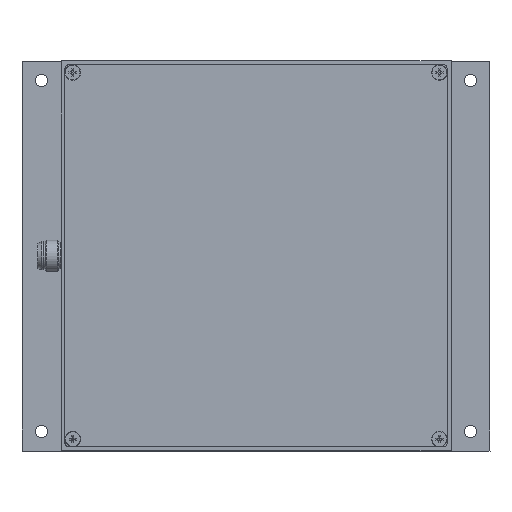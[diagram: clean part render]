
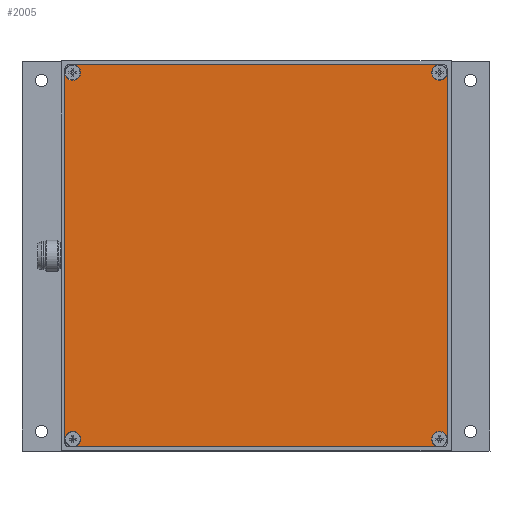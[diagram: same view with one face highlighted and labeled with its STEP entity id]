
A CAD part, top view. The second image highlights one B-rep face of the part: STEP entity #2005.
In plain terms, the highlighted planar face has unit normal (0, 0, 1).
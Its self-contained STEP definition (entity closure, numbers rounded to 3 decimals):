
#2005=ADVANCED_FACE('13:1309',(#3748),#3749,.T.);
#3748=FACE_OUTER_BOUND('',#5491,.T.);
#3749=PLANE('',#5492);
#5491=EDGE_LOOP('',(#9957,#9958,#9959,#9960,#9961,#9962,#9963,#9964,#9965,#9966,#9967,#9968));
#5492=AXIS2_PLACEMENT_3D('',#9969,#9970,#9971);
#9957=ORIENTED_EDGE('',*,*,#11745,.T.);
#9958=ORIENTED_EDGE('',*,*,#11736,.T.);
#9959=ORIENTED_EDGE('',*,*,#11779,.F.);
#9960=ORIENTED_EDGE('',*,*,#11725,.T.);
#9961=ORIENTED_EDGE('',*,*,#11750,.T.);
#9962=ORIENTED_EDGE('',*,*,#11780,.F.);
#9963=ORIENTED_EDGE('',*,*,#11716,.T.);
#9964=ORIENTED_EDGE('',*,*,#11756,.T.);
#9965=ORIENTED_EDGE('',*,*,#11777,.F.);
#9966=ORIENTED_EDGE('',*,*,#11761,.T.);
#9967=ORIENTED_EDGE('',*,*,#11707,.T.);
#9968=ORIENTED_EDGE('',*,*,#11781,.F.);
#9969=CARTESIAN_POINT('',(31.0,-31.0,28.0));
#9970=DIRECTION('',(0.0,0.0,1.0));
#9971=DIRECTION('',(1.0,0.0,0.0));
#11707=EDGE_CURVE('',#14249,#14235,#14254,.T.);
#11716=EDGE_CURVE('13:2024',#14263,#14267,#14269,.T.);
#11725=EDGE_CURVE('13:2612',#14283,#14281,#14284,.T.);
#11736=EDGE_CURVE('',#14294,#14226,#14301,.T.);
#11745=EDGE_CURVE('13:3236',#14298,#14294,#14312,.T.);
#11750=EDGE_CURVE('',#14281,#14217,#14317,.T.);
#11756=EDGE_CURVE('',#14267,#14244,#14323,.T.);
#11761=EDGE_CURVE('13:1471',#14328,#14249,#14329,.T.);
#11777=EDGE_CURVE('13:1375',#14328,#14244,#14349,.F.);
#11779=EDGE_CURVE('13:1381',#14283,#14226,#14351,.F.);
#11780=EDGE_CURVE('13:1384',#14263,#14217,#14352,.F.);
#11781=EDGE_CURVE('13:1378',#14298,#14235,#14353,.F.);
#14217=VERTEX_POINT('',#18641);
#14226=VERTEX_POINT('',#18652);
#14235=VERTEX_POINT('',#18663);
#14244=VERTEX_POINT('',#18674);
#14249=VERTEX_POINT('',#18680);
#14254=CIRCLE('',#18687,2.0);
#14263=VERTEX_POINT('',#18698);
#14267=VERTEX_POINT('',#18703);
#14269=CIRCLE('',#18706,2.0);
#14281=VERTEX_POINT('',#18721);
#14283=VERTEX_POINT('',#18724);
#14284=CIRCLE('',#18725,2.);
#14294=VERTEX_POINT('',#18737);
#14298=VERTEX_POINT('',#18742);
#14301=CIRCLE('',#18746,2.0);
#14312=CIRCLE('',#18759,2.0);
#14317=CIRCLE('',#18764,2.);
#14323=CIRCLE('',#18770,2.0);
#14328=VERTEX_POINT('',#18775);
#14329=CIRCLE('',#18776,2.0);
#14349=LINE('',#18801,#18802);
#14351=LINE('',#18804,#18805);
#14352=LINE('',#18806,#18807);
#14353=LINE('',#18808,#18809);
#18641=CARTESIAN_POINT('',(120.0,43.0,28.0));
#18652=CARTESIAN_POINT('',(216.0,45.0,28.0));
#18663=CARTESIAN_POINT('',(218.0,-51.0,28.0));
#18674=CARTESIAN_POINT('',(122.0,-53.0,28.0));
#18680=CARTESIAN_POINT('',(214.0,-51.0,28.0));
#18687=AXIS2_PLACEMENT_3D('',#20839,#20840,#20841);
#18698=CARTESIAN_POINT('',(120.0,-51.0,28.0));
#18703=CARTESIAN_POINT('',(124.0,-51.0,28.0));
#18706=AXIS2_PLACEMENT_3D('',#20852,#20853,#20854);
#18721=CARTESIAN_POINT('',(124.0,43.0,28.0));
#18724=CARTESIAN_POINT('',(122.0,45.0,28.0));
#18725=AXIS2_PLACEMENT_3D('',#20865,#20866,#20867);
#18737=CARTESIAN_POINT('',(214.0,43.0,28.0));
#18742=CARTESIAN_POINT('',(218.0,43.0,28.0));
#18746=AXIS2_PLACEMENT_3D('',#20884,#20885,#20886);
#18759=AXIS2_PLACEMENT_3D('',#20898,#20899,#20900);
#18764=AXIS2_PLACEMENT_3D('',#20907,#20908,#20909);
#18770=AXIS2_PLACEMENT_3D('',#20919,#20920,#20921);
#18775=CARTESIAN_POINT('',(216.0,-53.0,28.0));
#18776=AXIS2_PLACEMENT_3D('',#20928,#20929,#20930);
#18801=CARTESIAN_POINT('',(100.0,-53.0,28.0));
#18802=VECTOR('',#20951,1.0);
#18804=CARTESIAN_POINT('',(100.0,45.0,28.0));
#18805=VECTOR('',#20952,1.0);
#18806=CARTESIAN_POINT('',(120.0,-17.5,28.0));
#18807=VECTOR('',#20953,1.0);
#18808=CARTESIAN_POINT('',(218.0,-17.5,28.0));
#18809=VECTOR('',#20954,1.0);
#20839=CARTESIAN_POINT('',(216.0,-51.0,28.0));
#20840=DIRECTION('',(-0.0,0.0,-1.0));
#20841=DIRECTION('',(-1.0,0.0,0.0));
#20852=CARTESIAN_POINT('',(122.0,-51.0,28.0));
#20853=DIRECTION('',(-0.0,0.0,-1.0));
#20854=DIRECTION('',(-1.0,0.,0.0));
#20865=CARTESIAN_POINT('',(122.0,43.0,28.0));
#20866=DIRECTION('',(-0.0,0.0,-1.0));
#20867=DIRECTION('',(-1.0,0.,0.0));
#20884=CARTESIAN_POINT('',(216.0,43.0,28.0));
#20885=DIRECTION('',(-0.0,0.0,-1.0));
#20886=DIRECTION('',(-1.0,0.,0.0));
#20898=CARTESIAN_POINT('',(216.0,43.0,28.0));
#20899=DIRECTION('',(-0.0,0.0,-1.0));
#20900=DIRECTION('',(-1.0,0.,0.0));
#20907=CARTESIAN_POINT('',(122.0,43.0,28.0));
#20908=DIRECTION('',(-0.0,0.0,-1.0));
#20909=DIRECTION('',(-1.0,0.,0.0));
#20919=CARTESIAN_POINT('',(122.0,-51.0,28.0));
#20920=DIRECTION('',(-0.0,0.0,-1.0));
#20921=DIRECTION('',(-1.0,0.,0.0));
#20928=CARTESIAN_POINT('',(216.0,-51.0,28.0));
#20929=DIRECTION('',(-0.0,0.0,-1.0));
#20930=DIRECTION('',(-1.0,0.0,0.0));
#20951=DIRECTION('',(1.0,0.0,-0.0));
#20952=DIRECTION('',(-1.0,0.0,0.0));
#20953=DIRECTION('',(0.0,-1.0,0.0));
#20954=DIRECTION('',(-0.0,1.0,0.0));
